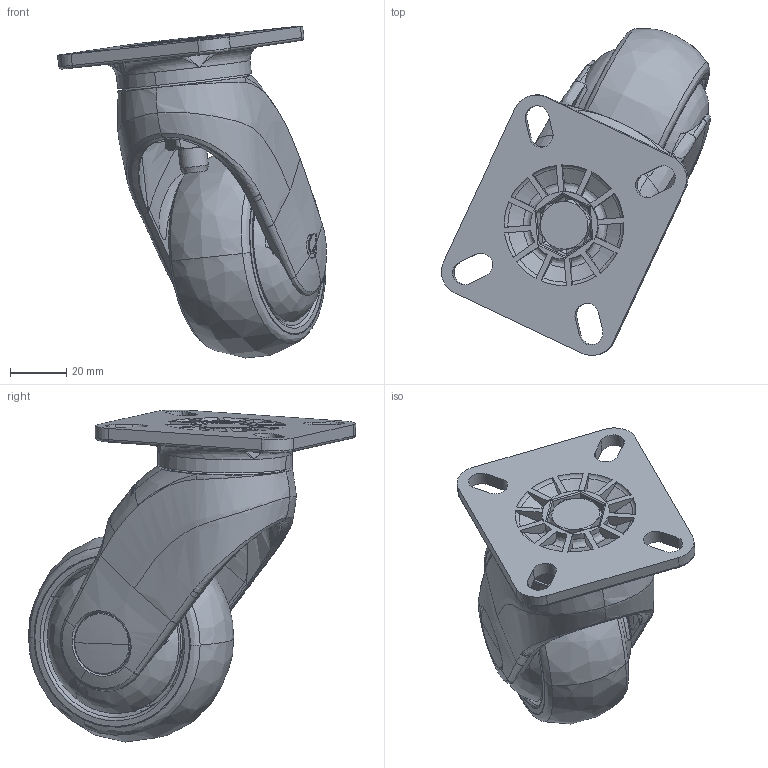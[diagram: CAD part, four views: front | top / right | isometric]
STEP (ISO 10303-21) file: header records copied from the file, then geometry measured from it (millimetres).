
FILE_DESCRIPTION (( 'STEP AP203' ), '1' );
FILE_NAME ('GKL-S-75 PTE-K 80.STEP', '2019-11-07T08:25:17', ( '' ), ( '' ), 'SwSTEP 2.0', 'SolidWorks 2017', '' );
FILE_SCHEMA (( 'CONFIG_CONTROL_DESIGN' ));
Products named in the file (1): GKL-S-75 PTE-K 80
Bounding box: 95.66 x 116.31 x 118.03 mm (x, y, z)
Surface area: 105296 mm2 (no closed solid volume)
Topology: 0 solids, 23 shells, 966 faces, 2789 edges, 1881 vertices
Faces by surface type: bspline 344, plane 264, cylinder 188, cone 109, torus 45, sphere 16
Entity records: 73002 total; most frequent: CARTESIAN_POINT 51140, ORIENTED_EDGE 5443, DIRECTION 3292, EDGE_CURVE 2727, VERTEX_POINT 1855, AXIS2_PLACEMENT_3D 1308, B_SPLINE_CURVE_WITH_KNOTS 1247, EDGE_LOOP 1049
